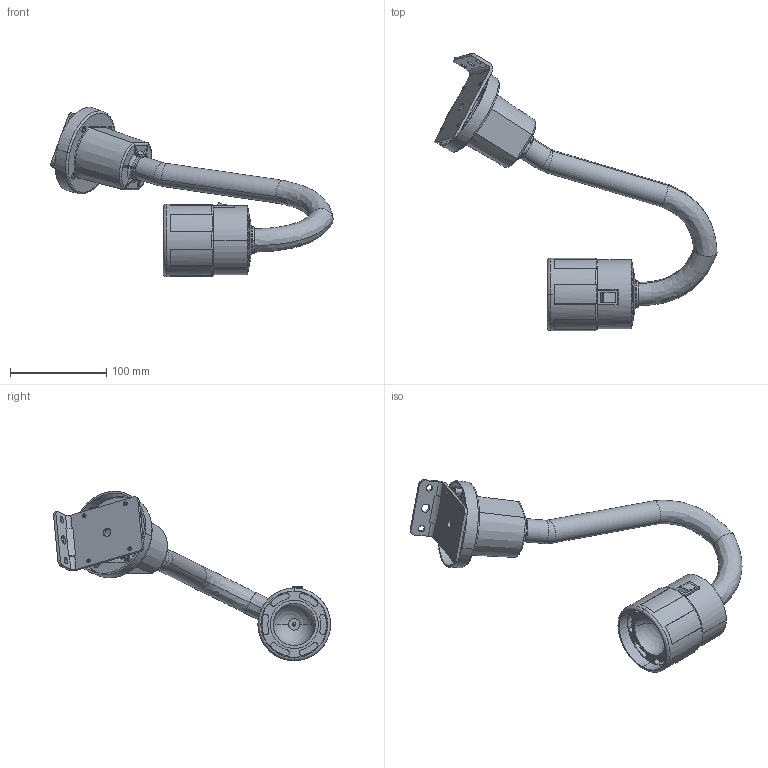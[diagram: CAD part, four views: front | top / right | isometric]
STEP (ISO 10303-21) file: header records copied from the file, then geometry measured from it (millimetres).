
FILE_DESCRIPTION((''),'2;1');
FILE_NAME('THL07-1T','2016-09-26T',('ABS'),(''),'PRO/ENGINEER BY PARAMETRIC TECHNOLOGY CORPORATION, 2012360','PRO/ENGINEER BY PARAMETRIC TECHNOLOGY CORPORATION, 2012360','');
FILE_SCHEMA(('CONFIG_CONTROL_DESIGN'));
Length unit declared in the file: inch
Products named in the file (1): THL07-1T
Bounding box: 292.8 x 287.47 x 175.75 mm (x, y, z)
Volume: 485216 mm3; surface area: 138447.9 mm2
Topology: 1 solids, 8 shells, 796 faces, 2329 edges, 1573 vertices
Faces by surface type: plane 319, cylinder 317, bspline 70, torus 60, cone 24, sphere 6
Entity records: 33240 total; most frequent: CARTESIAN_POINT 12546, ORIENTED_EDGE 4646, DIRECTION 3993, EDGE_CURVE 2323, VERTEX_POINT 1573, AXIS2_PLACEMENT_3D 1549, VECTOR 895, LINE 895
